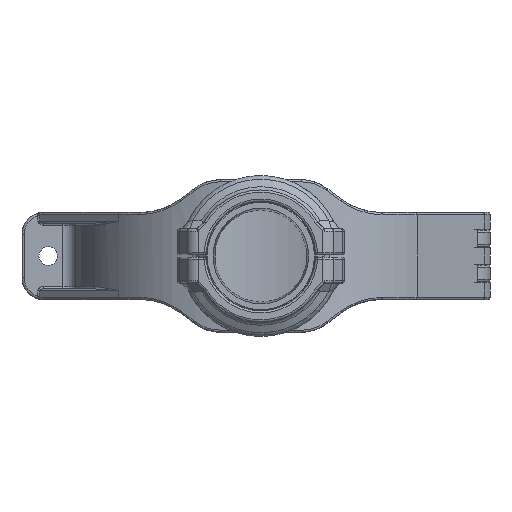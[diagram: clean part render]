
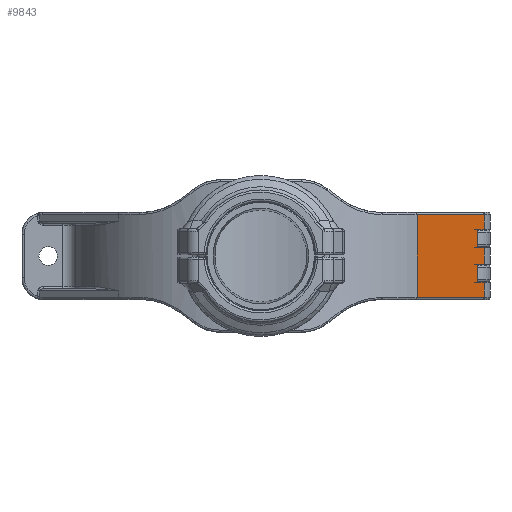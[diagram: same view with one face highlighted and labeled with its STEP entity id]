
A CAD part, front view. The second image highlights one B-rep face of the part: STEP entity #9843.
In plain terms, the highlighted planar face has unit normal (0.813, -0.582, 0).
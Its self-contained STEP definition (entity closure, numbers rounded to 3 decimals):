
#821=DIRECTION('',(-0.582,-0.813,0.));
#822=VECTOR('',#821,53.311);
#823=CARTESIAN_POINT('',(103.1,-8.193,19.114));
#824=LINE('',#823,#822);
#1040=DIRECTION('',(0.582,0.813,0.));
#1041=VECTOR('',#1040,5.417);
#1042=CARTESIAN_POINT('',(99.949,-12.599,12.223));
#1043=LINE('',#1042,#1041);
#1095=DIRECTION('',(0.,0.,1.));
#1096=VECTOR('',#1095,8.35);
#1097=CARTESIAN_POINT('',(99.949,-12.599,3.873));
#1098=LINE('',#1097,#1096);
#1133=DIRECTION('',(-0.582,-0.813,0.));
#1134=VECTOR('',#1133,5.417);
#1135=CARTESIAN_POINT('',(103.1,-8.193,3.873));
#1136=LINE('',#1135,#1134);
#1172=DIRECTION('',(0.,0.,1.));
#1173=VECTOR('',#1172,7.746);
#1174=CARTESIAN_POINT('',(103.1,-8.193,-3.873));
#1175=LINE('',#1174,#1173);
#1193=DIRECTION('',(0.,0.,1.));
#1194=VECTOR('',#1193,6.891);
#1195=CARTESIAN_POINT('',(103.1,-8.193,12.223));
#1196=LINE('',#1195,#1194);
#1208=DIRECTION('',(0.582,0.813,0.));
#1209=VECTOR('',#1208,5.417);
#1210=CARTESIAN_POINT('',(99.949,-12.599,-3.873));
#1211=LINE('',#1210,#1209);
#1263=DIRECTION('',(0.,0.,1.));
#1264=VECTOR('',#1263,8.35);
#1265=CARTESIAN_POINT('',(99.949,-12.599,
-12.223));
#1266=LINE('',#1265,#1264);
#1301=DIRECTION('',(-0.582,-0.813,0.));
#1302=VECTOR('',#1301,5.417);
#1303=CARTESIAN_POINT('',(103.1,-8.193,
-12.223));
#1304=LINE('',#1303,#1302);
#1340=DIRECTION('',(0.,0.,1.));
#1341=VECTOR('',#1340,6.891);
#1342=CARTESIAN_POINT('',(103.1,-8.193,-19.114));
#1343=LINE('',#1342,#1341);
#2562=DIRECTION('',(0.,0.,-1.));
#2563=VECTOR('',#2562,38.227);
#2564=CARTESIAN_POINT('',(72.088,-51.555,19.114));
#2565=LINE('',#2564,#2563);
#2663=DIRECTION('',(0.582,0.813,0.));
#2664=VECTOR('',#2663,53.311);
#2665=CARTESIAN_POINT('',(72.088,-51.555,-19.114));
#2666=LINE('',#2665,#2664);
#8314=CARTESIAN_POINT('',(72.088,-51.555,19.114));
#8316=VERTEX_POINT('',#8314);
#8317=CARTESIAN_POINT('',(103.1,-8.193,19.114));
#8319=VERTEX_POINT('',#8317);
#8336=CARTESIAN_POINT('',(99.949,-12.599,12.223));
#8338=VERTEX_POINT('',#8336);
#8339=CARTESIAN_POINT('',(103.1,-8.193,12.223));
#8340=VERTEX_POINT('',#8339);
#8343=CARTESIAN_POINT('',(99.949,-12.599,3.873));
#8345=VERTEX_POINT('',#8343);
#8349=CARTESIAN_POINT('',(103.1,-8.193,3.873));
#8350=VERTEX_POINT('',#8349);
#8355=CARTESIAN_POINT('',(103.1,-8.193,-3.873));
#8356=VERTEX_POINT('',#8355);
#8359=CARTESIAN_POINT('',(99.949,-12.599,-3.873));
#8360=VERTEX_POINT('',#8359);
#8361=CARTESIAN_POINT('',(99.949,-12.599,
-12.223));
#8362=VERTEX_POINT('',#8361);
#8363=CARTESIAN_POINT('',(103.1,-8.193,
-12.223));
#8364=VERTEX_POINT('',#8363);
#8365=CARTESIAN_POINT('',(103.1,-8.193,-19.114));
#8366=VERTEX_POINT('',#8365);
#8367=CARTESIAN_POINT('',(72.088,-51.555,-19.114));
#8368=VERTEX_POINT('',#8367);
#9817=CARTESIAN_POINT('',(103.1,-8.193,-20.12));
#9818=DIRECTION('',(-0.813,0.582,0.));
#9819=DIRECTION('',(-0.582,-0.813,0.));
#9820=AXIS2_PLACEMENT_3D('',#9817,#9818,#9819);
#9821=PLANE('',#9820);
#9823=ORIENTED_EDGE('',*,*,#9822,.F.);
#9824=ORIENTED_EDGE('',*,*,#9744,.F.);
#9825=ORIENTED_EDGE('',*,*,#9768,.F.);
#9826=ORIENTED_EDGE('',*,*,#9786,.F.);
#9827=ORIENTED_EDGE('',*,*,#9805,.F.);
#9829=ORIENTED_EDGE('',*,*,#9828,.F.);
#9831=ORIENTED_EDGE('',*,*,#9830,.F.);
#9833=ORIENTED_EDGE('',*,*,#9832,.F.);
#9835=ORIENTED_EDGE('',*,*,#9834,.F.);
#9837=ORIENTED_EDGE('',*,*,#9836,.F.);
#9839=ORIENTED_EDGE('',*,*,#9838,.F.);
#9840=ORIENTED_EDGE('',*,*,#9610,.F.);
#9841=EDGE_LOOP('',(#9823,#9824,#9825,#9826,#9827,#9829,#9831,#9833,#9835,#9837,
#9839,#9840));
#9842=FACE_OUTER_BOUND('',#9841,.F.);
#9610=EDGE_CURVE('',#8319,#8316,#824,.T.);
#9744=EDGE_CURVE('',#8338,#8340,#1043,.T.);
#9768=EDGE_CURVE('',#8345,#8338,#1098,.T.);
#9786=EDGE_CURVE('',#8350,#8345,#1136,.T.);
#9805=EDGE_CURVE('',#8356,#8350,#1175,.T.);
#9822=EDGE_CURVE('',#8340,#8319,#1196,.T.);
#9828=EDGE_CURVE('',#8360,#8356,#1211,.T.);
#9830=EDGE_CURVE('',#8362,#8360,#1266,.T.);
#9832=EDGE_CURVE('',#8364,#8362,#1304,.T.);
#9834=EDGE_CURVE('',#8366,#8364,#1343,.T.);
#9836=EDGE_CURVE('',#8368,#8366,#2666,.T.);
#9838=EDGE_CURVE('',#8316,#8368,#2565,.T.);
#9843=ADVANCED_FACE('',(#9842),#9821,.F.);
